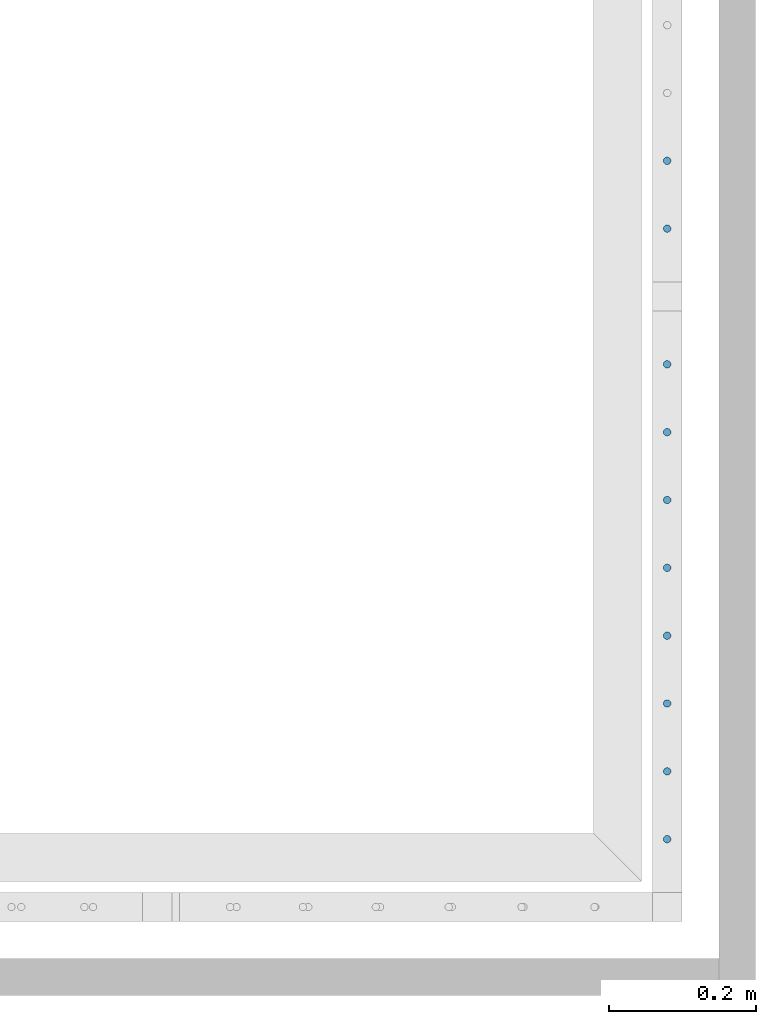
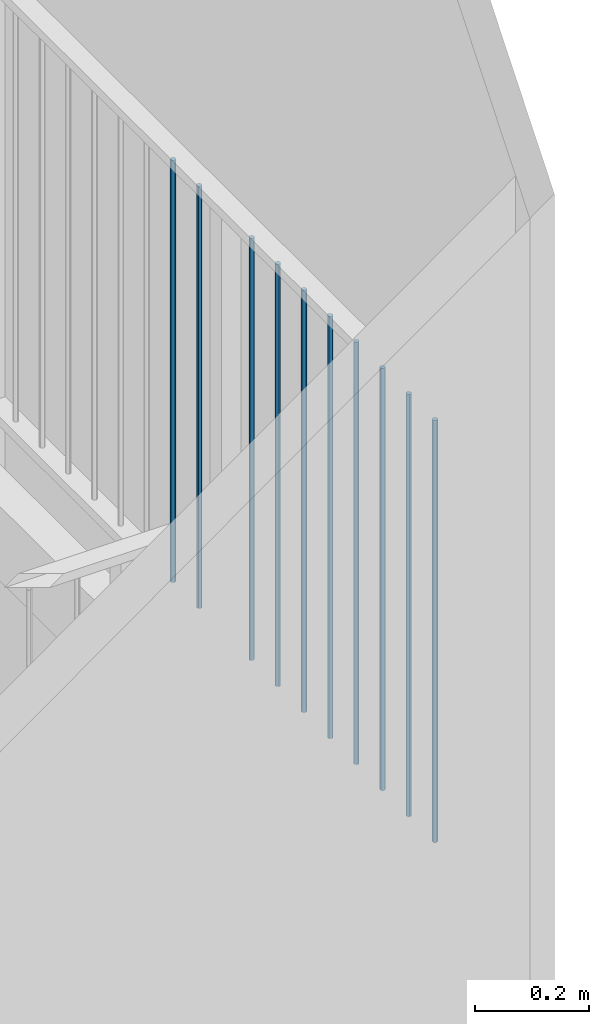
# One storey, part 37 of 135: 10 members, 1 element without a shape of its own.
"""IFC2X3 building model written with IfcOpenShell, lengths in millimetres."""

import ifcopenshell
import ifcopenshell.guid

model = None  # the IFC model being written
_history = None  # IfcOwnerHistory: only IFC2X3 demands one
_inside = {}  # id of a spatial element -> (the spatial element, [elements in it])
_under = {}  # id of a project, library or spatial element -> (it, [spatial elements below it])
_declared = {}  # id of a project -> (the project, [libraries it declares])
_typed = {}  # id of a type object -> (the type object, [elements of that type])
_made_of = {}  # id of a material, layer set ... -> (it, [elements and type objects made of it])


def new_model(schema):
    """Start an empty IFC model of exactly this schema.

    Asked for "IFC4X3", IfcOpenShell would pick the latest addendum, in which some entities
    have other attributes; the version numbers below select the first issue.
    IFC2X3 requires an IfcOwnerHistory on every rooted entity: one is made here for all.
    """
    global model, _history
    if schema == "IFC4X3":
        model = ifcopenshell.file(schema_version=(4, 3, 0, 0))
    else:
        model = ifcopenshell.file(schema=schema)
    _inside.clear()
    _under.clear()
    _declared.clear()
    _typed.clear()
    _made_of.clear()
    _history = None
    if model.schema == "IFC2X3":
        org = make("IfcOrganization", Name="unknown")
        user = make(
            "IfcPersonAndOrganization",
            ThePerson=make("IfcPerson", FamilyName="unknown"),
            TheOrganization=org,
        )
        app = make(
            "IfcApplication",
            ApplicationDeveloper=org,
            Version="unknown",
            ApplicationFullName="unknown",
            ApplicationIdentifier="unknown",
        )
        _history = make(
            "IfcOwnerHistory",
            OwningUser=user,
            OwningApplication=app,
            ChangeAction="ADDED",
            CreationDate=0,
        )
    return model


def make(cls, **values):
    """One entity of the class cls with the attributes given. An attribute that is None is left unset."""
    return model.create_entity(
        cls, **{name: value for name, value in values.items() if value is not None}
    )


def entity(cls, *values):
    """Any entity or typed value of the class cls, its attributes in the order of the schema. None: left unset."""
    e = model.create_entity(cls)
    for i, value in enumerate(values):
        if value is not None:
            e[i] = value
    return e


def rooted(cls, **values):
    """An entity with a GlobalId (a new one), such as an element, a storey or a relation."""
    return make(cls, GlobalId=ifcopenshell.guid.new(), OwnerHistory=_history, **values)


def si_unit(unit_type, name, prefix=None):
    """IfcSIUnit, for example si_unit("LENGTHUNIT", "METRE", prefix="MILLI")."""
    return make("IfcSIUnit", UnitType=unit_type, Prefix=prefix, Name=name)


def converted_unit(unit_type, name, factor, base, dimensions=None, offset=None):
    """IfcConversionBasedUnit, such as the inch: factor (a typed value) times the base unit."""
    return make(
        "IfcConversionBasedUnit"
        if offset is None
        else "IfcConversionBasedUnitWithOffset",
        ConversionOffset=offset,
        Dimensions=None
        if dimensions is None
        else entity("IfcDimensionalExponents", *dimensions),
        UnitType=unit_type,
        Name=name,
        ConversionFactor=make(
            "IfcMeasureWithUnit", ValueComponent=factor, UnitComponent=base
        ),
    )


def derived_unit(unit_type, elements):
    """IfcDerivedUnit: a product of units, each with its exponent."""
    return make(
        "IfcDerivedUnit",
        Elements=[
            make("IfcDerivedUnitElement", Unit=unit, Exponent=power)
            for unit, power in elements
        ],
        UnitType=unit_type,
    )


def money_unit(currency):
    """IfcMonetaryUnit."""
    return make("IfcMonetaryUnit", Currency=currency)


def assignment(units):
    """IfcUnitAssignment: the units of a project."""
    return None if units is None else make("IfcUnitAssignment", Units=units)


def point(xyz):
    """IfcCartesianPoint."""
    return None if xyz is None else make("IfcCartesianPoint", Coordinates=xyz)


def direction(xyz):
    """IfcDirection."""
    return None if xyz is None else make("IfcDirection", DirectionRatios=xyz)


def frame(location, z_axis=None, x_axis=None):
    """IfcAxis2Placement3D, a coordinate frame: its origin and axes. An axis left out is left unset."""
    return make(
        "IfcAxis2Placement3D",
        Location=point(location),
        Axis=direction(z_axis),
        RefDirection=direction(x_axis),
    )


def origin_with_axes():
    """The frame at (0, 0, 0) with the z axis (0, 0, 1) and the x axis (1, 0, 0) written out."""
    return frame((0.0, 0.0, 0.0), z_axis=(0.0, 0.0, 1.0), x_axis=(1.0, 0.0, 0.0))


def place(relative_to, where):
    """IfcLocalPlacement: puts the frame where relative to a parent placement (None: the world)."""
    return make(
        "IfcLocalPlacement", PlacementRelTo=relative_to, RelativePlacement=where
    )


def context(
    kind, dimensions, precision=None, world=None, true_north=None, identifier=None
):
    """IfcGeometricRepresentationContext, for example the 3D "Model" context."""
    return make(
        "IfcGeometricRepresentationContext",
        ContextIdentifier=identifier,
        ContextType=kind,
        CoordinateSpaceDimension=dimensions,
        Precision=precision,
        WorldCoordinateSystem=world,
        TrueNorth=true_north,
    )


def subcontext(parent, identifier, kind, view, scale=None):
    """IfcGeometricRepresentationSubContext, for example "Body" below "Model"."""
    return make(
        "IfcGeometricRepresentationSubContext",
        ContextIdentifier=identifier,
        ContextType=kind,
        ParentContext=parent,
        TargetScale=scale,
        TargetView=view,
    )


def project(units=None, contexts=None):
    """IfcProject with its units and contexts."""
    return rooted(
        "IfcProject",
        Name="project",
        RepresentationContexts=contexts,
        UnitsInContext=assignment(units),
    )


def spatial(cls, under=None, at=None, **own):
    """A site, building, storey or space (cls), placed at a placement, below another one or the project."""
    s = rooted(cls, ObjectPlacement=at, **own)
    if under is not None:
        _under.setdefault(under.id(), (under, []))[1].append(s)
    return s


def faces_of(points, faces, orient=None, outer=None):
    """IfcFace entities. A face is a list of loops; a loop is a list of indices into points, from 0.

    orient and outer hold one flag for each loop. By default every Orientation is true, the
    first loop of a face is its IfcFaceOuterBound and the others are IfcFaceBound.
    """
    made = []
    for i, loops in enumerate(faces):
        bounds = []
        for j, loop in enumerate(loops):
            is_outer = j == 0 if outer is None else outer[i][j]
            bounds.append(
                make(
                    "IfcFaceOuterBound" if is_outer else "IfcFaceBound",
                    Bound=make("IfcPolyLoop", Polygon=[points[k] for k in loop]),
                    Orientation=True if orient is None else orient[i][j],
                )
            )
        made.append(make("IfcFace", Bounds=bounds))
    return made


def faceted_brep(points, faces, orient=None, outer=None, voids=None):
    """IfcFacetedBrep: a solid bounded by flat faces; with voids (closed shells), ...WithVoids."""
    shared = [point(p) for p in points]
    hull = make("IfcClosedShell", CfsFaces=faces_of(shared, faces, orient, outer))
    if voids is None:
        return make("IfcFacetedBrep", Outer=hull)
    return make(
        "IfcFacetedBrepWithVoids",
        Outer=hull,
        Voids=[
            make(cls, CfsFaces=faces_of(shared, fs, o, b)) for cls, fs, o, b in voids
        ],
    )


def shape(context_of_items, identifier, shape_type, items):
    """IfcShapeRepresentation: the items that make up one representation, for example the "Body"."""
    return make(
        "IfcShapeRepresentation",
        ContextOfItems=context_of_items,
        RepresentationIdentifier=identifier,
        RepresentationType=shape_type,
        Items=items,
    )


def source(mapping_origin, context_of_items, identifier, shape_type, items):
    """IfcRepresentationMap: a shape defined once, which mapped items show again and again."""
    return make(
        "IfcRepresentationMap",
        MappingOrigin=mapping_origin,
        MappedRepresentation=shape(context_of_items, identifier, shape_type, items),
    )


def transform(
    local_origin,
    x_axis=None,
    y_axis=None,
    z_axis=None,
    scale=None,
    scale2=None,
    scale3=None,
    uniform=True,
):
    """IfcCartesianTransformationOperator3D, or its non-uniform kind. x_axis, y_axis, z_axis: its Axis1, 2, 3."""
    if uniform:
        return make(
            "IfcCartesianTransformationOperator3D",
            Axis1=direction(x_axis),
            Axis2=direction(y_axis),
            LocalOrigin=point(local_origin),
            Scale=scale,
            Axis3=direction(z_axis),
        )
    return make(
        "IfcCartesianTransformationOperator3DnonUniform",
        Axis1=direction(x_axis),
        Axis2=direction(y_axis),
        LocalOrigin=point(local_origin),
        Scale=scale,
        Axis3=direction(z_axis),
        Scale2=scale2,
        Scale3=scale3,
    )


def mapped(mapping_source, mapping_target):
    """IfcMappedItem: shows the shape of a source again, moved by a transform."""
    return make(
        "IfcMappedItem", MappingSource=mapping_source, MappingTarget=mapping_target
    )


def material(Name=None, Category=None):
    """IfcMaterial."""
    return make("IfcMaterial", Name=Name, Category=Category)


def made_of(thing, what):
    """Note that an element or type object is made of a material, layer set ...; save() writes the relation."""
    if what is not None:
        _made_of.setdefault(what.id(), (what, []))[1].append(thing)
    return thing


def type_object(cls, material=None, **own):
    """A type object (cls), such as IfcWallType, which elements share."""
    return made_of(rooted(cls, **own), material)


def type_shapes(of_type, sources):
    """Give a type object the sources (RepresentationMaps) that its elements show as mapped items."""
    of_type.RepresentationMaps = sources


def element(
    cls,
    number,
    at=None,
    inside=None,
    cuts=None,
    type_object=None,
    material=None,
    context=None,
    identifier="Body",
    shape_type=None,
    held_by="IfcProductDefinitionShape",
    body=None,
    shapes=None,
    **own,
):
    """One element of the class cls, such as IfcWall. Its Tag is "e" and its number.

    at: its placement. inside: the storey or other place that contains it. cuts: it is an
    opening in that element (IfcRelVoidsElement). A single representation is given by context,
    identifier, shape_type and body (its items); several are given by shapes. held_by: the class
    of the entity that holds the representations. save() writes the other relations.
    """
    e = rooted(cls, Tag="e%d" % number, ObjectPlacement=at, **own)
    if body is not None:
        shapes = [shape(context, identifier, shape_type, body)]
    if shapes is not None:
        e.Representation = make(held_by, Representations=shapes)
    if inside is not None:
        _inside.setdefault(inside.id(), (inside, []))[1].append(e)
    if cuts is not None:
        rooted(
            "IfcRelVoidsElement", RelatingBuildingElement=cuts, RelatedOpeningElement=e
        )
    if type_object is not None:
        _typed.setdefault(type_object.id(), (type_object, []))[1].append(e)
    return made_of(e, material)


def aggregate(whole, parts):
    """IfcRelAggregates: a whole, such as a stair, and the parts it consists of."""
    return rooted("IfcRelAggregates", RelatingObject=whole, RelatedObjects=parts)


def save(model, path):
    """Write the relations noted so far, then the file.

    IfcRelAggregates (storeys below a building ...), IfcRelContainedInSpatialStructure (elements
    in a storey), IfcRelDefinesByType, IfcRelAssociatesMaterial and IfcRelDeclares: one each for
    every whole, place, type object, material and project.
    """
    for whole, parts in _under.values():
        aggregate(whole, parts)
    for where, things in _inside.values():
        rooted(
            "IfcRelContainedInSpatialStructure",
            RelatedElements=things,
            RelatingStructure=where,
        )
    for kind, things in _typed.values():
        rooted("IfcRelDefinesByType", RelatedObjects=things, RelatingType=kind)
    for what, things in _made_of.values():
        rooted("IfcRelAssociatesMaterial", RelatedObjects=things, RelatingMaterial=what)
    for by, libraries in _declared.values():
        rooted("IfcRelDeclares", RelatingContext=by, RelatedDefinitions=libraries)
    model.write(path)


model = new_model("IFC2X3")

# Units and contexts
model_context = context("Model", 3, precision=0.01, world=origin_with_axes(), true_north=direction((0.0, 1.0)))
body_context = subcontext(model_context, "Body", "Model", "MODEL_VIEW")
ifc_project = project(units=[si_unit("LENGTHUNIT", "METRE", prefix="MILLI"), si_unit("AREAUNIT", "SQUARE_METRE"), si_unit("VOLUMEUNIT", "CUBIC_METRE"), converted_unit("PLANEANGLEUNIT", "DEGREE", entity("IfcPlaneAngleMeasure", 0.0174532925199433), si_unit("PLANEANGLEUNIT", "RADIAN"), dimensions=[0, 0, 0, 0, 0, 0, 0]), money_unit("EUR"), converted_unit("TIMEUNIT", "Year", entity("IfcTimeMeasure", 31557600.0), si_unit("TIMEUNIT", "SECOND"), dimensions=[0, 0, 1, 0, 0, 0, 0]), si_unit("MASSUNIT", "GRAM", prefix="KILO"), si_unit("THERMODYNAMICTEMPERATUREUNIT", "DEGREE_CELSIUS"), si_unit("LUMINOUSINTENSITYUNIT", "LUMEN"), si_unit("ENERGYUNIT", "JOULE", prefix="MEGA"), derived_unit("THERMALCONDUCTANCEUNIT", [(si_unit("POWERUNIT", "WATT"), 1), (si_unit("LENGTHUNIT", "METRE"), -1), (si_unit("THERMODYNAMICTEMPERATUREUNIT", "KELVIN"), -1)]), derived_unit("SPECIFICHEATCAPACITYUNIT", [(si_unit("ENERGYUNIT", "JOULE"), 1), (si_unit("MASSUNIT", "GRAM", prefix="KILO"), -1), (si_unit("THERMODYNAMICTEMPERATUREUNIT", "KELVIN"), -1)]), derived_unit("MASSDENSITYUNIT", [(si_unit("MASSUNIT", "GRAM", prefix="KILO"), 1), (si_unit("VOLUMEUNIT", "CUBIC_METRE"), -1)])], contexts=[model_context])

# Site, building, storey
site_placement = place(None, origin_with_axes())
site = spatial("IfcSite", under=ifc_project, at=site_placement, Name="Site", CompositionType="ELEMENT")
building_placement = place(site_placement, origin_with_axes())
building = spatial("IfcBuilding", under=site, at=building_placement, Name="Naam gebouw", CompositionType="ELEMENT")
storey_placement = place(building_placement, origin_with_axes())
storey = spatial("IfcBuildingStorey", under=building, at=storey_placement, Name="Begane grond N", CompositionType="ELEMENT", Elevation=0.0)

# Railing, members
railing_type = type_object("IfcRailingType", Name="Railing Type", PredefinedType="NOTDEFINED")
railing_placement = place(storey_placement, frame((56236.62159597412, 21185.9124251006, 157.4646725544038), z_axis=(0.0, 0.0, 1.0), x_axis=(1.0, 0.0, 0.0)))
railing = element("IfcRailing", 1, at=railing_placement, inside=storey, type_object=railing_type, Name="_Reling-x", PredefinedType="NOTDEFINED")
ifc_material = material(Name="Metaal - Staal C")
member_type = type_object("IfcMemberType", Name="IfcMember", PredefinedType="MEMBER")
shared_shape = source(origin_with_axes(), body_context, "Body", "Brep", [
    faceted_brep([(0.0, -5.0, 0.0), (0.8682408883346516, -4.92403876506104, 0.0), (0.868240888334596, -4.92403876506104, 907.5000000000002), (0.0, -5.0, 907.5000000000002), (-0.868240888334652, -4.92403876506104, 0.0), (-1.710100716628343, -4.698463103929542, 0.0), (-2.500000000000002, -4.330127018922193, 0.0), (-3.213938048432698, -3.830222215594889, 0.0), (-3.830222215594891, -3.213938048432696, 0.0), (-4.330127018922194, -2.5, 0.0), (-4.698463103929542, -1.710100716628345, 0.0), (-4.924038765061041, -0.86824088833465, 0.0), (-5.0, 0.0, 0.0), (-4.92403876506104, 0.8682408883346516, 0.0), (-4.698463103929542, 1.710100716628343, 0.0), (-4.330127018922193, 2.500000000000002, 0.0), (-3.83022221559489, 3.213938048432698, 0.0), (-3.213938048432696, 3.83022221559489, 0.0), (-2.5, 4.330127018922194, 0.0), (-1.710100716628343, 4.698463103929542, 0.0), (-0.8682408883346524, 4.92403876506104, 0.0), (0.0, 5.0, 0.0), (0.8682408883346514, 4.92403876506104, 0.0), (1.710100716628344, 4.698463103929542, 0.0), (2.5, 4.330127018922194, 0.0), (3.213938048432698, 3.83022221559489, 0.0), (3.83022221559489, 3.213938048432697, 0.0), (4.330127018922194, 2.499999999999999, 0.0), (4.698463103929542, 1.710100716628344, 0.0), (4.92403876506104, 0.8682408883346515, 0.0), (5.0, 0.0, 0.0), (4.92403876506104, -0.8682408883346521, 0.0), (4.698463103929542, -1.710100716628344, 0.0), (4.330127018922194, -2.5, 0.0), (3.83022221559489, -3.213938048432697, 0.0), (3.213938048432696, -3.83022221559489, 0.0), (2.5, -4.330127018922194, 0.0), (1.710100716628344, -4.698463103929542, 0.0), (1.710100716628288, -4.698463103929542, 907.5000000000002), (2.499999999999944, -4.330127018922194, 907.5000000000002), (3.213938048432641, -3.83022221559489, 907.5000000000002), (3.830222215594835, -3.213938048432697, 907.5000000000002), (4.330127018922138, -2.5, 907.5000000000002), (4.698463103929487, -1.710100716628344, 907.5000000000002), (4.924038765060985, -0.8682408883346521, 907.5000000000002), (4.999999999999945, 0.0, 907.5000000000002), (4.924038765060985, 0.8682408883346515, 907.5000000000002), (4.698463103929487, 1.710100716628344, 907.5000000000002), (4.330127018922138, 2.499999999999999, 907.5000000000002), (3.830222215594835, 3.213938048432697, 907.5000000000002), (3.213938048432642, 3.83022221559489, 907.5000000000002), (2.499999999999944, 4.330127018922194, 907.5000000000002), (1.710100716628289, 4.698463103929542, 907.5000000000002), (0.8682408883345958, 4.92403876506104, 907.5000000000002), (0.0, 5.0, 907.5000000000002), (-0.868240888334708, 4.92403876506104, 907.5000000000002), (-1.710100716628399, 4.698463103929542, 907.5000000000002), (-2.500000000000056, 4.330127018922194, 907.5000000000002), (-3.213938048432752, 3.83022221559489, 907.5000000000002), (-3.830222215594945, 3.213938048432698, 907.5000000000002), (-4.330127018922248, 2.500000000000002, 907.5000000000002), (-4.698463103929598, 1.710100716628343, 907.5000000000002), (-4.924038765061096, 0.8682408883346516, 907.5000000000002), (-5.000000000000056, 0.0, 907.5000000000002), (-4.924038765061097, -0.86824088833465, 907.5000000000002), (-4.698463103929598, -1.710100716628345, 907.5000000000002), (-4.330127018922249, -2.5, 907.5000000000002), (-3.830222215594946, -3.213938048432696, 907.5000000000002), (-3.213938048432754, -3.830222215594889, 907.5000000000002), (-2.500000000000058, -4.330127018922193, 907.5000000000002), (-1.710100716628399, -4.698463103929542, 907.5000000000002), (-0.8682408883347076, -4.92403876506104, 907.5000000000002)], [[[0, 1, 2, 3]], [[0, 4, 5, 6, 7, 8, 9, 10, 11, 12, 13, 14, 15, 16, 17, 18, 19, 20, 21, 22, 23, 24, 25, 26, 27, 28, 29, 30, 31, 32, 33, 34, 35, 36, 37, 1]], [[1, 37, 38, 2]], [[3, 2, 38, 39, 40, 41, 42, 43, 44, 45, 46, 47, 48, 49, 50, 51, 52, 53, 54, 55, 56, 57, 58, 59, 60, 61, 62, 63, 64, 65, 66, 67, 68, 69, 70, 71]], [[4, 0, 3, 71]], [[5, 4, 71, 70]], [[6, 5, 70, 69]], [[7, 6, 69, 68]], [[8, 7, 68, 67]], [[9, 8, 67, 66]], [[10, 9, 66, 65]], [[11, 10, 65, 64]], [[12, 11, 64, 63]], [[13, 12, 63, 62]], [[14, 13, 62, 61]], [[15, 14, 61, 60]], [[16, 15, 60, 59]], [[17, 16, 59, 58]], [[18, 17, 58, 57]], [[19, 18, 57, 56]], [[20, 19, 56, 55]], [[21, 20, 55, 54]], [[22, 21, 54, 53]], [[23, 22, 53, 52]], [[24, 23, 52, 51]], [[25, 24, 51, 50]], [[26, 25, 50, 49]], [[27, 26, 49, 48]], [[28, 27, 48, 47]], [[29, 28, 47, 46]], [[30, 29, 46, 45]], [[31, 30, 45, 44]], [[32, 31, 44, 43]], [[33, 32, 43, 42]], [[34, 33, 42, 41]], [[35, 34, 41, 40]], [[36, 35, 40, 39]], [[37, 36, 39, 38]]]),
])
type_shapes(member_type, [shared_shape])
member_1_placement = place(railing_placement, frame((3908.03766228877, 67.22222222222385, 2000.208938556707), z_axis=(0.0, 0.0, 1.0), x_axis=(1.0, 0.0, 0.0)))
member_1 = element("IfcMember", 2, at=member_1_placement, type_object=member_type, material=ifc_material, Name="_Spijlen-x", ObjectType="MEMBER", context=body_context, shape_type="MappedRepresentation", body=[
    mapped(shared_shape, transform((0.0, 0.0, 0.0))),
])
member_2_placement = place(railing_placement, frame((3908.03766228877, 159.4444444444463, 2000.208938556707), z_axis=(0.0, 0.0, 1.0), x_axis=(1.0, 0.0, 0.0)))
member_2 = element("IfcMember", 3, at=member_2_placement, type_object=member_type, material=ifc_material, Name="_Spijlen-x", ObjectType="MEMBER", context=body_context, shape_type="MappedRepresentation", body=[
    mapped(shared_shape, transform((0.0, 0.0, 0.0))),
])
member_3_placement = place(railing_placement, frame((3908.03766228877, 251.6666666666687, 2000.208938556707), z_axis=(0.0, 0.0, 1.0), x_axis=(1.0, 0.0, 0.0)))
member_3 = element("IfcMember", 4, at=member_3_placement, type_object=member_type, material=ifc_material, Name="_Spijlen-x", ObjectType="MEMBER", context=body_context, shape_type="MappedRepresentation", body=[
    mapped(shared_shape, transform((0.0, 0.0, 0.0))),
])
member_4_placement = place(railing_placement, frame((3908.03766228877, 343.8888888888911, 2000.208938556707), z_axis=(0.0, 0.0, 1.0), x_axis=(1.0, 0.0, 0.0)))
member_4 = element("IfcMember", 5, at=member_4_placement, type_object=member_type, material=ifc_material, Name="_Spijlen-x", ObjectType="MEMBER", context=body_context, shape_type="MappedRepresentation", body=[
    mapped(shared_shape, transform((0.0, 0.0, 0.0))),
])
member_5_placement = place(railing_placement, frame((3908.03766228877, 436.1111111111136, 2000.208938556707), z_axis=(0.0, 0.0, 1.0), x_axis=(1.0, 0.0, 0.0)))
member_5 = element("IfcMember", 6, at=member_5_placement, type_object=member_type, material=ifc_material, Name="_Spijlen-x", ObjectType="MEMBER", context=body_context, shape_type="MappedRepresentation", body=[
    mapped(shared_shape, transform((0.0, 0.0, 0.0))),
])
member_6_placement = place(railing_placement, frame((3908.03766228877, 528.333333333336, 2000.208938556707), z_axis=(0.0, 0.0, 1.0), x_axis=(1.0, 0.0, 0.0)))
member_6 = element("IfcMember", 7, at=member_6_placement, type_object=member_type, material=ifc_material, Name="_Spijlen-x", ObjectType="MEMBER", context=body_context, shape_type="MappedRepresentation", body=[
    mapped(shared_shape, transform((0.0, 0.0, 0.0))),
])
member_7_placement = place(railing_placement, frame((3908.03766228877, 620.5555555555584, 2000.208938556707), z_axis=(0.0, 0.0, 1.0), x_axis=(1.0, 0.0, 0.0)))
member_7 = element("IfcMember", 8, at=member_7_placement, type_object=member_type, material=ifc_material, Name="_Spijlen-x", ObjectType="MEMBER", context=body_context, shape_type="MappedRepresentation", body=[
    mapped(shared_shape, transform((0.0, 0.0, 0.0))),
])
member_8_placement = place(railing_placement, frame((3908.03766228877, 897.2222222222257, 2000.208938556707), z_axis=(0.0, 0.0, 1.0), x_axis=(1.0, 0.0, 0.0)))
member_8 = element("IfcMember", 9, at=member_8_placement, type_object=member_type, material=ifc_material, Name="_Spijlen-x", ObjectType="MEMBER", context=body_context, shape_type="MappedRepresentation", body=[
    mapped(shared_shape, transform((0.0, 0.0, 0.0))),
])
member_9_placement = place(railing_placement, frame((3908.03766228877, 989.4444444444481, 2000.208938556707), z_axis=(0.0, 0.0, 1.0), x_axis=(1.0, 0.0, 0.0)))
member_9 = element("IfcMember", 10, at=member_9_placement, type_object=member_type, material=ifc_material, Name="_Spijlen-x", ObjectType="MEMBER", context=body_context, shape_type="MappedRepresentation", body=[
    mapped(shared_shape, transform((0.0, 0.0, 0.0))),
])
member_10_placement = place(railing_placement, frame((3908.03766228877, 712.7777777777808, 2000.208938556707), z_axis=(0.0, 0.0, 1.0), x_axis=(1.0, 0.0, 0.0)))
member_10 = element("IfcMember", 11, at=member_10_placement, type_object=member_type, material=ifc_material, Name="_Spijlen-x", ObjectType="MEMBER", context=body_context, shape_type="MappedRepresentation", body=[
    mapped(shared_shape, transform((0.0, 0.0, 0.0))),
])
aggregate(railing, [member_1, member_2, member_3, member_4, member_5, member_6, member_7, member_8, member_9, member_10])

save(model, "model.ifc")
